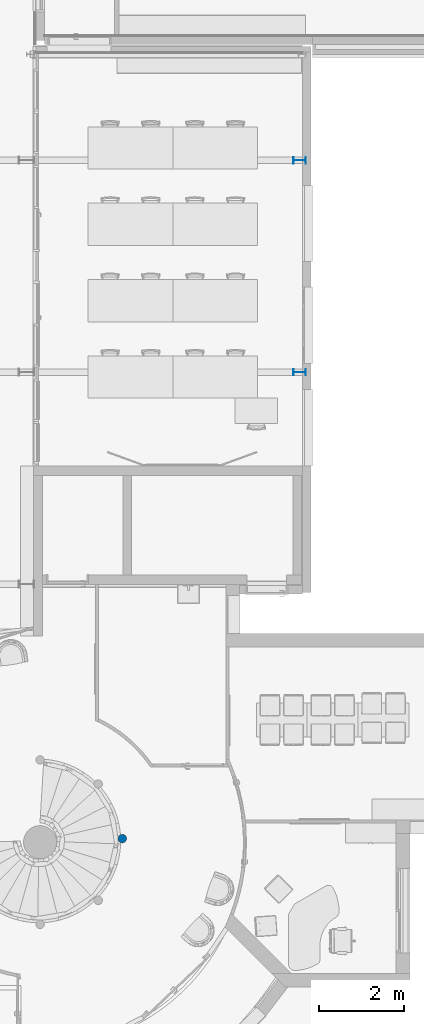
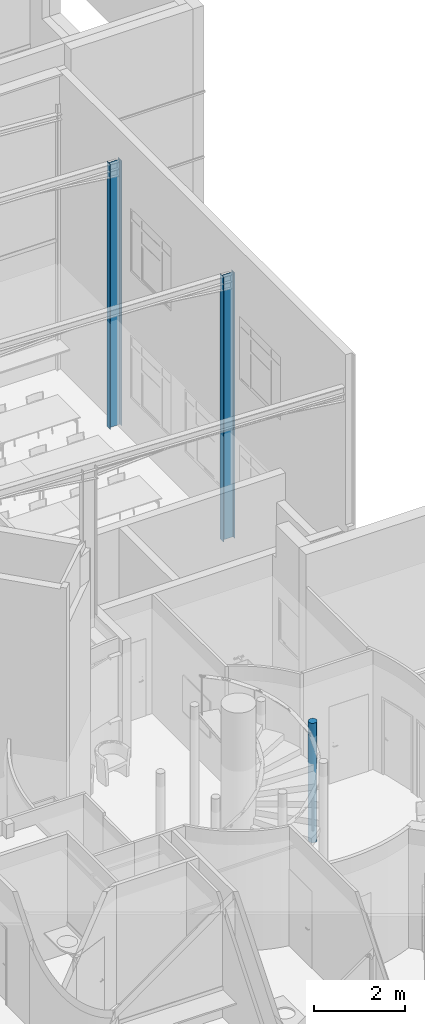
# One storey, part 6 of 137: 3 columns.
"""IFC2X3 building model written with IfcOpenShell, lengths in centimetres."""

from ifc_helpers import new_model, entity, si_unit, converted_unit, derived_unit, direction, frame, frame_2d, origin, place, context, subcontext, project, spatial, polyline, circle_curve, parameter, trimmed, segment, composite_curve, circle, outline, extrude, source, transform, mapped, material, type_object, type_shapes, element, save


model = new_model("IFC2X3")

# Units and contexts
model_context = context("Model", 3, precision=0.001, world=origin(), true_north=direction((6.12303176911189e-17, 1.0)))
body_context = subcontext(model_context, "Body", "Model", "MODEL_VIEW")
ifc_project = project(units=[si_unit("LENGTHUNIT", "METRE", prefix="CENTI"), si_unit("AREAUNIT", "SQUARE_METRE"), si_unit("VOLUMEUNIT", "CUBIC_METRE"), converted_unit("PLANEANGLEUNIT", "DEGREE", entity("IfcRatioMeasure", 0.0174532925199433), si_unit("PLANEANGLEUNIT", "RADIAN"), dimensions=[0, 0, 0, 0, 0, 0, 0]), si_unit("MASSUNIT", "GRAM", prefix="KILO"), si_unit("TIMEUNIT", "SECOND"), si_unit("FREQUENCYUNIT", "HERTZ"), si_unit("THERMODYNAMICTEMPERATUREUNIT", "DEGREE_CELSIUS"), derived_unit("THERMALTRANSMITTANCEUNIT", [(si_unit("MASSUNIT", "GRAM", prefix="KILO"), 1), (si_unit("THERMODYNAMICTEMPERATUREUNIT", "KELVIN"), -1), (si_unit("TIMEUNIT", "SECOND"), -3)]), derived_unit("VOLUMETRICFLOWRATEUNIT", [(si_unit("LENGTHUNIT", "METRE"), 3), (si_unit("TIMEUNIT", "SECOND"), -1)]), si_unit("ELECTRICCURRENTUNIT", "AMPERE"), si_unit("ELECTRICVOLTAGEUNIT", "VOLT"), si_unit("POWERUNIT", "WATT"), si_unit("FORCEUNIT", "NEWTON", prefix="KILO"), si_unit("ILLUMINANCEUNIT", "LUX"), si_unit("LUMINOUSFLUXUNIT", "LUMEN"), si_unit("LUMINOUSINTENSITYUNIT", "CANDELA"), derived_unit("USERDEFINED", [(si_unit("MASSUNIT", "GRAM", prefix="KILO"), -1), (si_unit("LENGTHUNIT", "METRE"), -2), (si_unit("TIMEUNIT", "SECOND"), 3), (si_unit("LUMINOUSFLUXUNIT", "LUMEN"), 1)]), derived_unit("LINEARVELOCITYUNIT", [(si_unit("LENGTHUNIT", "METRE"), 1), (si_unit("TIMEUNIT", "SECOND"), -1)]), si_unit("PRESSUREUNIT", "PASCAL"), derived_unit("USERDEFINED", [(si_unit("LENGTHUNIT", "METRE"), -2), (si_unit("MASSUNIT", "GRAM", prefix="KILO"), 1), (si_unit("TIMEUNIT", "SECOND"), -2)])], contexts=[model_context])

# Site, building, storey
site_placement = place(None, frame((8.62739174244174, -249.285249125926, 0.0)))
site = spatial("IfcSite", under=ifc_project, at=site_placement, Name="Default", CompositionType="ELEMENT")
building_placement = place(site_placement, origin())
building = spatial("IfcBuilding", under=site, at=building_placement, CompositionType="ELEMENT")
storey_placement = place(building_placement, origin())
storey = spatial("IfcBuildingStorey", under=building, at=storey_placement, Name="RDC", CompositionType="ELEMENT", Elevation=-8.82465566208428e-11)

# Columns
ifc_material_1 = material(Name="Béton, coffrage en contreplaqué")
column_type_1 = type_object("IfcColumnType", Name="Diamètre de 200 mm", PredefinedType="COLUMN", material=ifc_material_1)
shared_shape_1 = source(origin(), body_context, "Body", "SweptSolid", [
    extrude(circle(Radius=9.99999999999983, at=frame_2d((2.76554195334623e-15, 3.33333333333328), x_axis=(1.0, 0.0))), frame((0.0, 3.33333333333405, 0.0), z_axis=(0.0, 0.0, 1.0), x_axis=(-1.0, 0.0, 0.0)), (0.0, 0.0, 1.0), 322.000000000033),
])
type_shapes(column_type_1, [shared_shape_1])
column_placement = place(storey_placement, frame((3237.75821774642, 761.980208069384, 0.0)))
element("IfcColumn", 1, at=column_placement, inside=storey, type_object=column_type_1, material=ifc_material_1, Name="Poteau porteur rond:Diamètre de 200 mm", ObjectType="Diamètre de 200 mm", context=body_context, shape_type="MappedRepresentation", body=[
    mapped(shared_shape_1, transform((0.0, 0.0, 0.0), scale=1.0)),
])
ifc_material_2 = material(Name="Acier, 45-345")
column_type_2 = type_object("IfcColumnType", Name="IPE 300", PredefinedType="COLUMN", material=ifc_material_2)
shared_shape_2 = source(origin(), body_context, "Body", "SweptSolid", [
    extrude(outline(composite_curve([segment(polyline([(14.1, -7.5), (15.0, -7.5)]), True, "CONTINUOUS"), segment(polyline([(15.0, -7.5), (15.0, 7.5)]), True, "CONTINUOUS"), segment(polyline([(15.0, 7.5), (14.1, 7.5)]), True, "CONTINUOUS"), segment(polyline([(14.1, 7.5), (14.1, 1.8)]), True, "CONTINUOUS"), segment(trimmed(circle_curve(frame_2d((12.6, 1.8), x_axis=(1.0, 0.0)), 1.5), [parameter(270.0)], [parameter(0.0)], True, "PARAMETER"), False, "CONTINUOUS"), segment(polyline([(12.6, 0.300000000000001), (-12.6, 0.300000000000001)]), True, "CONTINUOUS"), segment(trimmed(circle_curve(frame_2d((-12.6, 1.8), x_axis=(0.0, -1.0)), 1.5), [parameter(270.0)], [parameter(0.0)], True, "PARAMETER"), False, "CONTINUOUS"), segment(polyline([(-14.1, 1.8), (-14.1, 7.5)]), True, "CONTINUOUS"), segment(polyline([(-14.1, 7.5), (-15.0, 7.5)]), True, "CONTINUOUS"), segment(polyline([(-15.0, 7.5), (-15.0, -7.5)]), True, "CONTINUOUS"), segment(polyline([(-15.0, -7.5), (-14.1, -7.5)]), True, "CONTINUOUS"), segment(polyline([(-14.1, -7.5), (-14.1, -1.8)]), True, "CONTINUOUS"), segment(trimmed(circle_curve(frame_2d((-12.6, -1.8), x_axis=(-1.0, 0.0)), 1.5), [parameter(269.999999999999)], [parameter(0.0)], True, "PARAMETER"), False, "CONTINUOUS"), segment(polyline([(-12.6, -0.3), (12.6, -0.3)]), True, "CONTINUOUS"), segment(trimmed(circle_curve(frame_2d((12.6, -1.8), x_axis=(0.0, 1.0)), 1.5), [parameter(270.0)], [parameter(0.0)], True, "PARAMETER"), False, "CONTINUOUS"), segment(polyline([(14.1, -1.8), (14.1, -7.5)]), True, "CONTINUOUS")], self_intersect=False)), frame((0.0, 0.0, 0.0), z_axis=(0.0, 0.0, 1.0), x_axis=(0.0, -1.0, 0.0)), (0.0, 0.0, 1.0), 715.0),
])
type_shapes(column_type_2, [shared_shape_2])
for number, where, z_axis, x_axis in (
    (2, (3655.90000000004, 2361.98020806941, 0.0), (0.0, 0.0, 1.0), (0.0, 1.0, 0.0)),
    (3, (3655.90000000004, 1861.98020806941, 0.0), (0.0, 0.0, 1.0), (0.0, 1.0, 0.0)),
):
    element("IfcColumn", number, at=place(storey_placement, frame(where, z_axis=z_axis, x_axis=x_axis)), inside=storey, type_object=column_type_2, material=ifc_material_2, Name="IPE-300-150:IPE 300", ObjectType="IPE 300", context=body_context, shape_type="MappedRepresentation", body=[
        mapped(shared_shape_2, transform((0.0, 0.0, 0.0), scale=1.0)),
    ])

save(model, "model.ifc")
